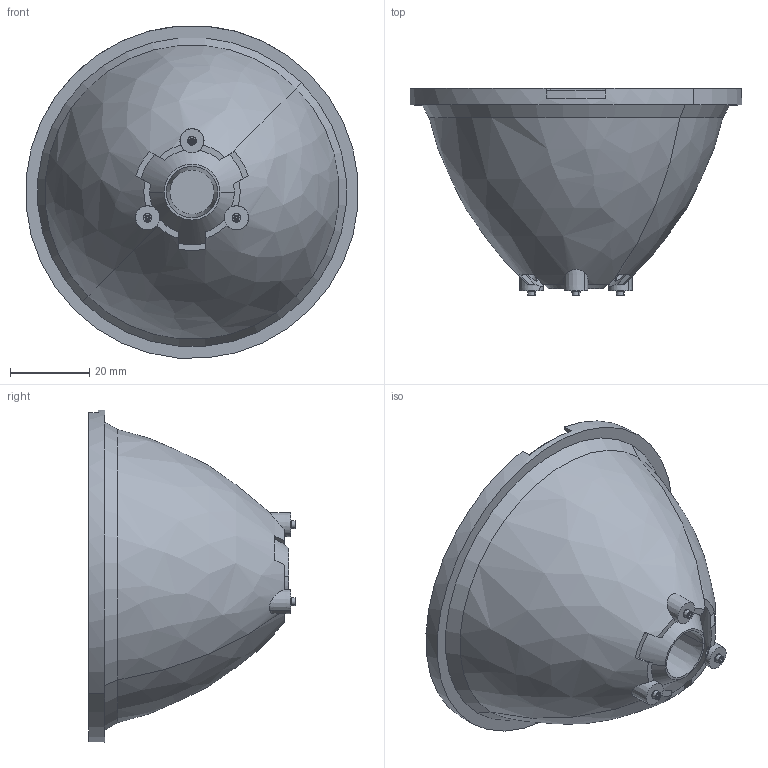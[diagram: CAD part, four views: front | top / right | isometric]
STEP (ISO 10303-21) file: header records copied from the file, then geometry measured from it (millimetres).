
FILE_DESCRIPTION (( 'STEP AP214' ), '1' );
FILE_NAME ('LLNS-3T08-P3_RevA3.STEP', '2012-09-06T23:31:36', ( '' ), ( '' ), 'SwSTEP 2.0', 'SolidWorks 2011', '' );
FILE_SCHEMA (( 'AUTOMOTIVE_DESIGN' ));
Length unit declared in the file: millimetre
Products named in the file (1): LLNS-3T08-P3_RevA3
Bounding box: 83.68 x 52.17 x 83.72 mm (x, y, z)
Volume: 75279.6 mm3; surface area: 40708 mm2
Topology: 2 solids, 2 shells, 213 faces, 556 edges, 364 vertices
Faces by surface type: cone 107, plane 72, bspline 16, cylinder 16, torus 2
Entity records: 9608 total; most frequent: CARTESIAN_POINT 1944, DIRECTION 1144, ORIENTED_EDGE 1112, EDGE_CURVE 556, AXIS2_PLACEMENT_3D 474, VERTEX_POINT 364, CIRCLE 276, EDGE_LOOP 232
